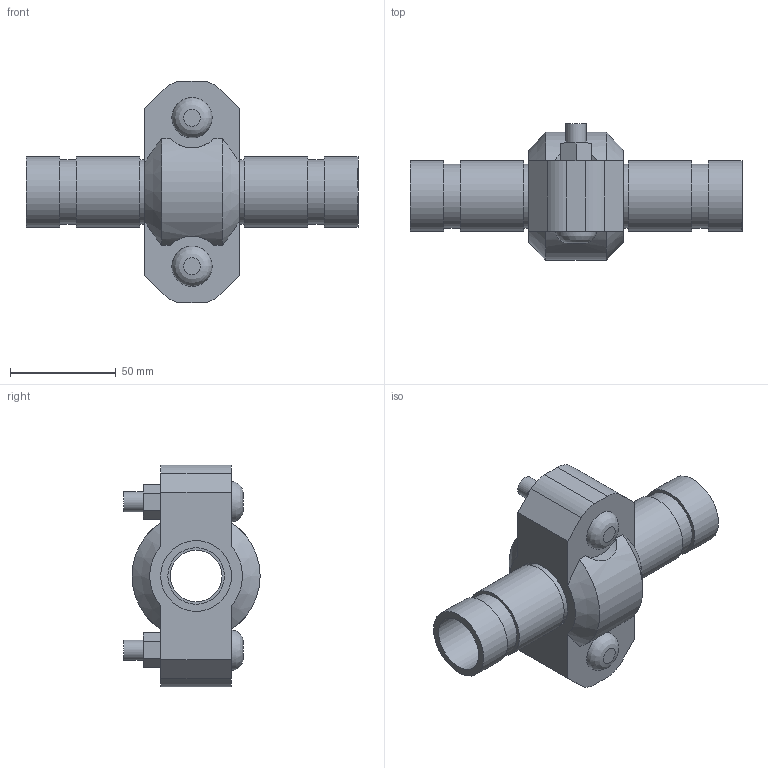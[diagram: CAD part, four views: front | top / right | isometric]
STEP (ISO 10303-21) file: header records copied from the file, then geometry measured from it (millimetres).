
FILE_DESCRIPTION(/* description */ ('VIC EXPANSION JOINT 1 COUPLING EXPANDED STYLE 155 (OGS)','CAx-IF Rec.Pracs.---Representation and Presentation of Product Manufacturing Information (PMI)---4.0---2014-10-13'),/* implementation_level */ '2;1');
FILE_NAME(/* name */ 'C:\Users\kkamble\AppData\Roaming\Autodesk\ApplicationPlugins\Victaulic.Temp\A694\Victaulic_IPS_Expansion Joint_Expanded_1 Coupling_Style 155 (OGS)_1 (25).stp',/* time_stamp */ '2021-06-26T23:47:07+02:00',/* author */ ('kkamble'),/* organization */ ('Victaulic'),/* preprocessor_version */ 'ST-DEVELOPER v17.2',/* originating_system */ 'Autodesk Inventor 2019',/* authorisation */ '');
FILE_SCHEMA (('AP242_MANAGED_MODEL_BASED_3D_ENGINEERING_MIM_LF { 1 0 10303 442 1 1 4 }'));
Length unit declared in the file: inch
Products named in the file (3): 155-01.0; Nipple-01.0; 077-01.0
Assembly tree (3 placements, depth 2):
  155-01.0
    Nipple-01.0  x2
    077-01.0
Bounding box: 156.72 x 64.33 x 104.65 mm (x, y, z)
Volume: 190250.6 mm3; surface area: 60886.4 mm2
Topology: 3 solids, 5 shells, 85 faces, 205 edges, 146 vertices
Faces by surface type: plane 48, cylinder 31, cone 4, bspline 2
Full cylindrical faces by diameter (mm): 9.525 x4, 11.43 x2, 24.511 x1, 26.645 x2, 30.226 x4, 33.401 x8
Entity records: 2485 total; most frequent: CARTESIAN_POINT 496, DIRECTION 389, ORIENTED_EDGE 350, EDGE_CURVE 175, AXIS2_PLACEMENT_3D 149, VERTEX_POINT 122, EDGE_LOOP 93, LINE 91
